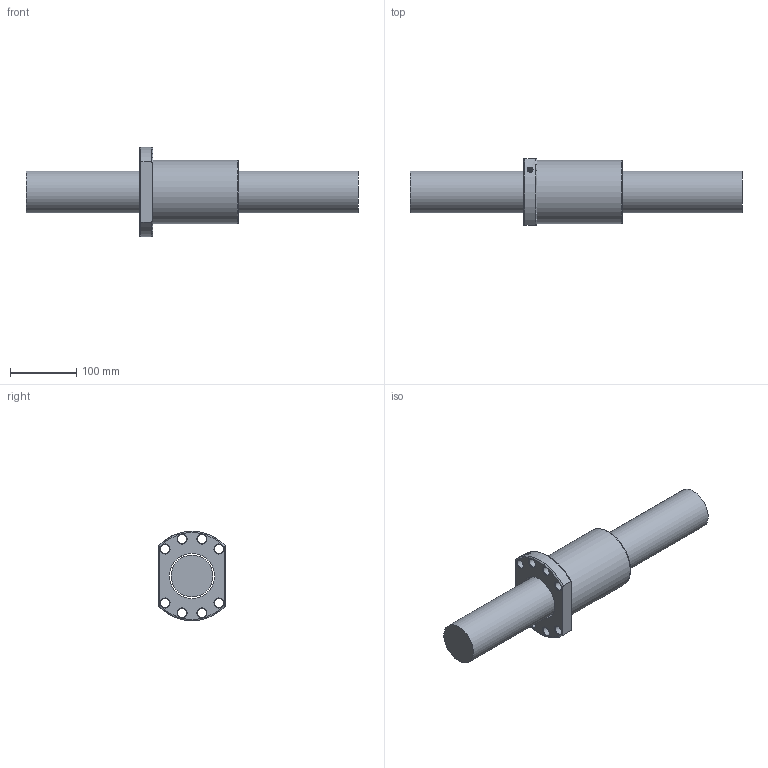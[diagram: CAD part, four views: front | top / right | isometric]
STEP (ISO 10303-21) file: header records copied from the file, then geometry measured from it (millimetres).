
FILE_DESCRIPTION (( 'STEP AP203' ), '1' );
FILE_NAME ('SFNU06320D-4.step', '2024-05-14T06:35:00', ( '' ), ( '' ), 'SwSTEP 2.0', 'SolidWorks 2022', '' );
FILE_SCHEMA (( 'CONFIG_CONTROL_DESIGN' ));
Length unit declared in the file: millimetre
Products named in the file (1): SFNU06320D-4
Bounding box: 500 x 100 x 135 mm (x, y, z)
Volume: 2146897.3 mm3; surface area: 204640.1 mm2
Topology: 2 solids, 2 shells, 60 faces, 155 edges, 100 vertices
Faces by surface type: cylinder 21, cone 17, plane 12, bspline 5, torus 5
Full cylindrical faces by diameter (mm): 4 x1, 7 x6, 13.5 x8, 63 x1, 68.2 x1, 95 x1
Entity records: 3366 total; most frequent: CARTESIAN_POINT 2204, DIRECTION 214, ORIENTED_EDGE 182, EDGE_LOOP 106, AXIS2_PLACEMENT_3D 99, EDGE_CURVE 91, VERTEX_POINT 75, FACE_OUTER_BOUND 68
